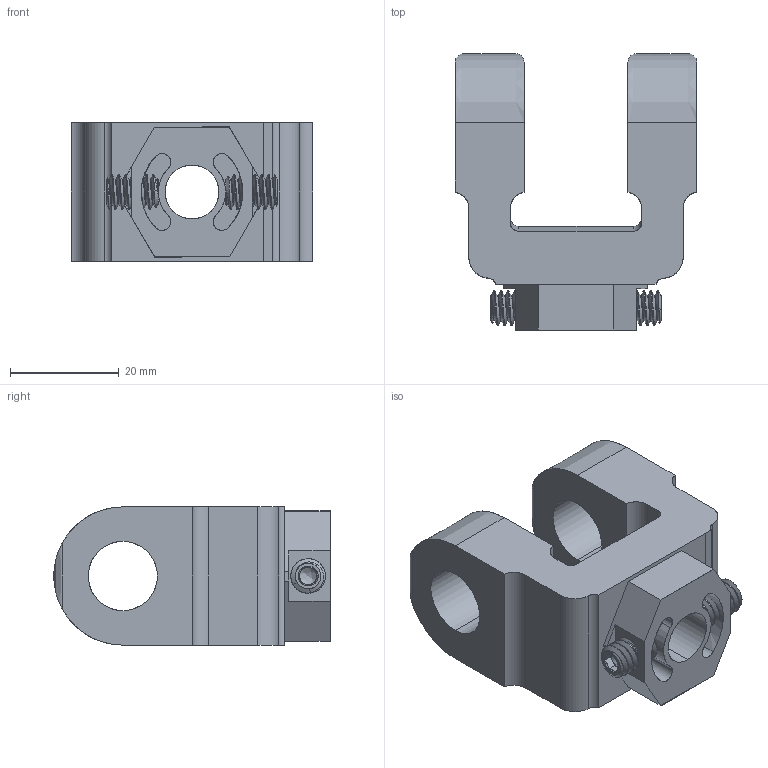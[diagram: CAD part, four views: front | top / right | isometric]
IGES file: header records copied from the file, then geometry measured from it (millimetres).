
Start section: SolidWorks IGES file using analytic representation for surfaces
Global section: file name: C:\Manufacturing Design Services\Taperline Manufacturing\Rod Clevis\RC 0500\RC 0500.IGS; native system: SolidWorks 2010; preprocessor: SolidWorks 2010; author: ProBook; date: 111205.215240; units: inch
Bounding box: 44.45 x 50.8 x 25.4 mm (x, y, z)
Surface area: 10859.6 mm2 (no closed solid volume)
Topology: 0 solids, 0 shells, 198 faces, 3805 edges, 3803 vertices
Faces by surface type: revolution 132, bspline 66
